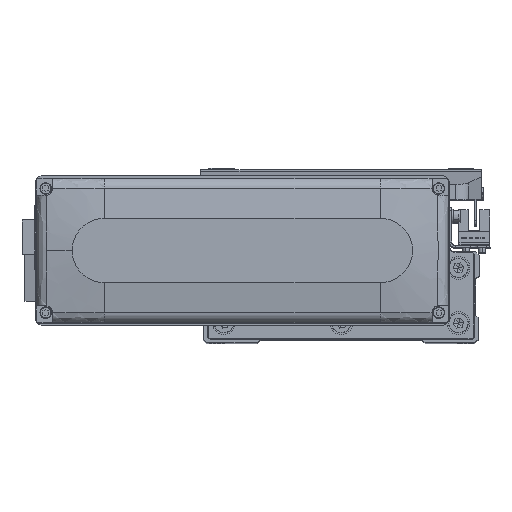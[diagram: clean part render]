
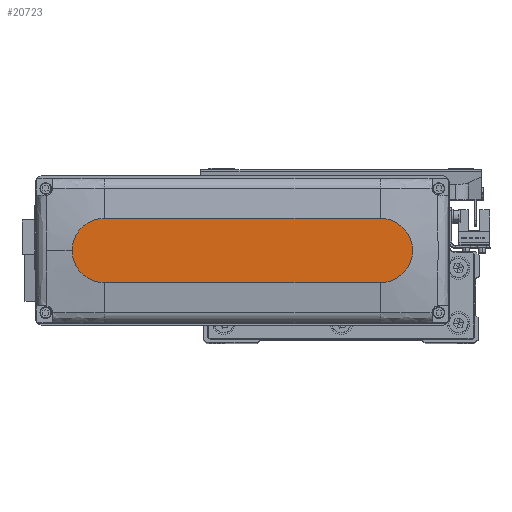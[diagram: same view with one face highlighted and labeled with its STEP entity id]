
A CAD part, top view. The second image highlights one B-rep face of the part: STEP entity #20723.
In plain terms, the highlighted planar face has unit normal (0, 0, 1).
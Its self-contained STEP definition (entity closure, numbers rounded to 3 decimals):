
#1569 = ORIENTED_EDGE ( 'NONE', *, *, #36629, .T. ) ;
#3690 = CARTESIAN_POINT ( 'NONE',  ( -60., -14., 28.5 ) ) ;
#3733 = ORIENTED_EDGE ( 'NONE', *, *, #8860, .T. ) ;
#4801 = AXIS2_PLACEMENT_3D ( 'NONE', #37421, #11452, #21106 ) ;
#7262 = CARTESIAN_POINT ( 'NONE',  ( 60., 14., 28.5 ) ) ;
#7702 = CARTESIAN_POINT ( 'NONE',  ( 60., 0., 28.5 ) ) ;
#8272 = VERTEX_POINT ( 'NONE', #7262 ) ;
#8860 = EDGE_CURVE ( 'NONE', #32486, #19755, #24834, .T. ) ;
#9902 = CARTESIAN_POINT ( 'NONE',  ( -60., -14., 28.5 ) ) ;
#11452 = DIRECTION ( 'NONE',  ( 0., 0., 1. ) ) ;
#11996 = AXIS2_PLACEMENT_3D ( 'NONE', #31576, #14838, #41021 ) ;
#12827 = VECTOR ( 'NONE', #14603, 1000. ) ;
#13592 = DIRECTION ( 'NONE',  ( -1., 0., 0. ) ) ;
#14603 = DIRECTION ( 'NONE',  ( 1., 0., 0. ) ) ;
#14838 = DIRECTION ( 'NONE',  ( 0., 0., 1. ) ) ;
#15148 = DIRECTION ( 'NONE',  ( 1., 0., 0. ) ) ;
#15444 = EDGE_CURVE ( 'NONE', #16586, #8272, #35621, .T. ) ;
#16586 = VERTEX_POINT ( 'NONE', #16652 ) ;
#16609 = CARTESIAN_POINT ( 'NONE',  ( -60., 14., 28.5 ) ) ;
#16652 = CARTESIAN_POINT ( 'NONE',  ( 74., 0., 28.5 ) ) ;
#17536 = CARTESIAN_POINT ( 'NONE',  ( 60., -14., 28.5 ) ) ;
#17979 = ORIENTED_EDGE ( 'NONE', *, *, #15444, .T. ) ;
#18720 = PLANE ( 'NONE',  #11996 ) ;
#19403 = LINE ( 'NONE', #16609, #37353 ) ;
#19755 = VERTEX_POINT ( 'NONE', #3690 ) ;
#20723 = ADVANCED_FACE ( 'NONE', ( #34805 ), #18720, .T. ) ;
#21106 = DIRECTION ( 'NONE',  ( 1., 0., 0. ) ) ;
#21590 = DIRECTION ( 'NONE',  ( 0., 0., 1. ) ) ;
#21997 = AXIS2_PLACEMENT_3D ( 'NONE', #7702, #21590, #15148 ) ;
#22260 = EDGE_CURVE ( 'NONE', #8272, #32486, #19403, .T. ) ;
#22822 = EDGE_LOOP ( 'NONE', ( #33050, #3733, #1569, #27236, #17979 ) ) ;
#24046 = CIRCLE ( 'NONE', #21997, 14. ) ;
#24786 = CARTESIAN_POINT ( 'NONE',  ( -60., 0., 28.5 ) ) ;
#24834 = CIRCLE ( 'NONE', #29589, 14. ) ;
#25415 = DIRECTION ( 'NONE',  ( 0., 0., 1. ) ) ;
#26188 = LINE ( 'NONE', #9902, #12827 ) ;
#27236 = ORIENTED_EDGE ( 'NONE', *, *, #41381, .T. ) ;
#29589 = AXIS2_PLACEMENT_3D ( 'NONE', #24786, #25415, #37883 ) ;
#31576 = CARTESIAN_POINT ( 'NONE',  ( 0., 0., 28.5 ) ) ;
#32486 = VERTEX_POINT ( 'NONE', #36317 ) ;
#33050 = ORIENTED_EDGE ( 'NONE', *, *, #22260, .T. ) ;
#34805 = FACE_OUTER_BOUND ( 'NONE', #22822, .T. ) ;
#34862 = VERTEX_POINT ( 'NONE', #17536 ) ;
#35621 = CIRCLE ( 'NONE', #4801, 14. ) ;
#36317 = CARTESIAN_POINT ( 'NONE',  ( -60., 14., 28.5 ) ) ;
#36629 = EDGE_CURVE ( 'NONE', #19755, #34862, #26188, .T. ) ;
#37353 = VECTOR ( 'NONE', #13592, 1000. ) ;
#37421 = CARTESIAN_POINT ( 'NONE',  ( 60., 0., 28.5 ) ) ;
#37883 = DIRECTION ( 'NONE',  ( 1., 0., 0. ) ) ;
#41021 = DIRECTION ( 'NONE',  ( 1., 0., 0. ) ) ;
#41381 = EDGE_CURVE ( 'NONE', #34862, #16586, #24046, .T. ) ;
